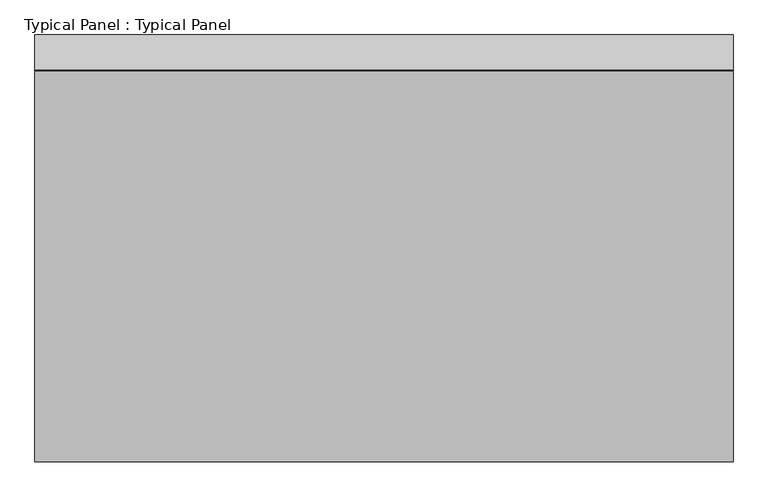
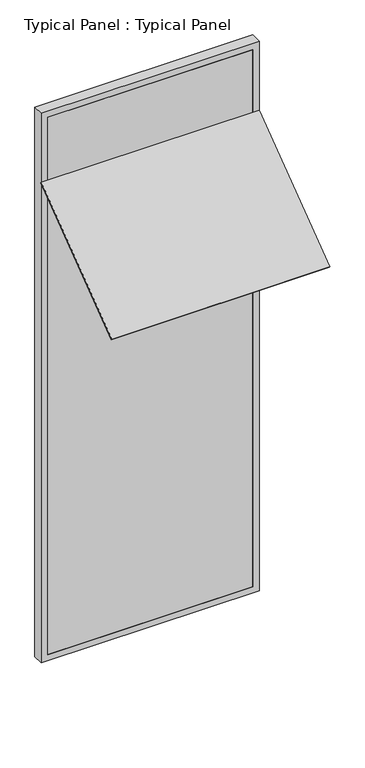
"""IFC4 building model written with IfcOpenShell, lengths in millimetres: plate geometry, Typical Panel : Typical Panel."""

import ifcopenshell
import ifcopenshell.guid

model = None  # the IFC model being written
_history = None  # IfcOwnerHistory: only IFC2X3 demands one
_inside = {}  # id of a spatial element -> (the spatial element, [elements in it])
_under = {}  # id of a project, library or spatial element -> (it, [spatial elements below it])
_declared = {}  # id of a project -> (the project, [libraries it declares])
_typed = {}  # id of a type object -> (the type object, [elements of that type])
_made_of = {}  # id of a material, layer set ... -> (it, [elements and type objects made of it])


def new_model(schema):
    """Start an empty IFC model of exactly this schema.

    Asked for "IFC4X3", IfcOpenShell would pick the latest addendum, in which some entities
    have other attributes; the version numbers below select the first issue.
    IFC2X3 requires an IfcOwnerHistory on every rooted entity: one is made here for all.
    """
    global model, _history
    if schema == "IFC4X3":
        model = ifcopenshell.file(schema_version=(4, 3, 0, 0))
    else:
        model = ifcopenshell.file(schema=schema)
    _inside.clear()
    _under.clear()
    _declared.clear()
    _typed.clear()
    _made_of.clear()
    _history = None
    if model.schema == "IFC2X3":
        org = make("IfcOrganization", Name="unknown")
        user = make(
            "IfcPersonAndOrganization",
            ThePerson=make("IfcPerson", FamilyName="unknown"),
            TheOrganization=org,
        )
        app = make(
            "IfcApplication",
            ApplicationDeveloper=org,
            Version="unknown",
            ApplicationFullName="unknown",
            ApplicationIdentifier="unknown",
        )
        _history = make(
            "IfcOwnerHistory",
            OwningUser=user,
            OwningApplication=app,
            ChangeAction="ADDED",
            CreationDate=0,
        )
    return model


def make(cls, **values):
    """One entity of the class cls with the attributes given. An attribute that is None is left unset."""
    return model.create_entity(
        cls, **{name: value for name, value in values.items() if value is not None}
    )


def rooted(cls, **values):
    """An entity with a GlobalId (a new one), such as an element, a storey or a relation."""
    return make(cls, GlobalId=ifcopenshell.guid.new(), OwnerHistory=_history, **values)


def si_unit(unit_type, name, prefix=None):
    """IfcSIUnit, for example si_unit("LENGTHUNIT", "METRE", prefix="MILLI")."""
    return make("IfcSIUnit", UnitType=unit_type, Prefix=prefix, Name=name)


def assignment(units):
    """IfcUnitAssignment: the units of a project."""
    return None if units is None else make("IfcUnitAssignment", Units=units)


def point(xyz):
    """IfcCartesianPoint."""
    return None if xyz is None else make("IfcCartesianPoint", Coordinates=xyz)


def direction(xyz):
    """IfcDirection."""
    return None if xyz is None else make("IfcDirection", DirectionRatios=xyz)


def frame(location, z_axis=None, x_axis=None):
    """IfcAxis2Placement3D, a coordinate frame: its origin and axes. An axis left out is left unset."""
    return make(
        "IfcAxis2Placement3D",
        Location=point(location),
        Axis=direction(z_axis),
        RefDirection=direction(x_axis),
    )


def origin():
    """The frame at (0, 0, 0) with its axes left unset."""
    return frame((0.0, 0.0, 0.0))


def place(relative_to, where):
    """IfcLocalPlacement: puts the frame where relative to a parent placement (None: the world)."""
    return make(
        "IfcLocalPlacement", PlacementRelTo=relative_to, RelativePlacement=where
    )


def context(
    kind, dimensions, precision=None, world=None, true_north=None, identifier=None
):
    """IfcGeometricRepresentationContext, for example the 3D "Model" context."""
    return make(
        "IfcGeometricRepresentationContext",
        ContextIdentifier=identifier,
        ContextType=kind,
        CoordinateSpaceDimension=dimensions,
        Precision=precision,
        WorldCoordinateSystem=world,
        TrueNorth=true_north,
    )


def project(units=None, contexts=None):
    """IfcProject with its units and contexts."""
    return rooted(
        "IfcProject",
        Name="project",
        RepresentationContexts=contexts,
        UnitsInContext=assignment(units),
    )


def spatial(cls, under=None, at=None, **own):
    """A site, building, storey or space (cls), placed at a placement, below another one or the project."""
    s = rooted(cls, ObjectPlacement=at, **own)
    if under is not None:
        _under.setdefault(under.id(), (under, []))[1].append(s)
    return s


def polyline(points):
    """IfcPolyline through the points."""
    return make("IfcPolyline", Points=[point(p) for p in points])


def outline(outer, holes=None, kind="AREA"):
    """IfcArbitraryClosedProfileDef: a profile drawn as a closed curve; with holes, ...WithVoids."""
    if holes is None:
        return make("IfcArbitraryClosedProfileDef", ProfileType=kind, OuterCurve=outer)
    return make(
        "IfcArbitraryProfileDefWithVoids",
        ProfileType=kind,
        OuterCurve=outer,
        InnerCurves=holes,
    )


def extrude(swept, where, along, depth):
    """IfcExtrudedAreaSolid: the profile swept, set in the frame where, extruded along a direction by depth."""
    return make(
        "IfcExtrudedAreaSolid",
        SweptArea=swept,
        Position=where,
        ExtrudedDirection=direction(along),
        Depth=depth,
    )


def shape(context_of_items, identifier, shape_type, items):
    """IfcShapeRepresentation: the items that make up one representation, for example the "Body"."""
    return make(
        "IfcShapeRepresentation",
        ContextOfItems=context_of_items,
        RepresentationIdentifier=identifier,
        RepresentationType=shape_type,
        Items=items,
    )


def source(mapping_origin, context_of_items, identifier, shape_type, items):
    """IfcRepresentationMap: a shape defined once, which mapped items show again and again."""
    return make(
        "IfcRepresentationMap",
        MappingOrigin=mapping_origin,
        MappedRepresentation=shape(context_of_items, identifier, shape_type, items),
    )


def transform(
    local_origin,
    x_axis=None,
    y_axis=None,
    z_axis=None,
    scale=None,
    scale2=None,
    scale3=None,
    uniform=True,
):
    """IfcCartesianTransformationOperator3D, or its non-uniform kind. x_axis, y_axis, z_axis: its Axis1, 2, 3."""
    if uniform:
        return make(
            "IfcCartesianTransformationOperator3D",
            Axis1=direction(x_axis),
            Axis2=direction(y_axis),
            LocalOrigin=point(local_origin),
            Scale=scale,
            Axis3=direction(z_axis),
        )
    return make(
        "IfcCartesianTransformationOperator3DnonUniform",
        Axis1=direction(x_axis),
        Axis2=direction(y_axis),
        LocalOrigin=point(local_origin),
        Scale=scale,
        Axis3=direction(z_axis),
        Scale2=scale2,
        Scale3=scale3,
    )


def mapped(mapping_source, mapping_target):
    """IfcMappedItem: shows the shape of a source again, moved by a transform."""
    return make(
        "IfcMappedItem", MappingSource=mapping_source, MappingTarget=mapping_target
    )


def made_of(thing, what):
    """Note that an element or type object is made of a material, layer set ...; save() writes the relation."""
    if what is not None:
        _made_of.setdefault(what.id(), (what, []))[1].append(thing)
    return thing


def element(
    cls,
    number,
    at=None,
    inside=None,
    cuts=None,
    type_object=None,
    material=None,
    context=None,
    identifier="Body",
    shape_type=None,
    held_by="IfcProductDefinitionShape",
    body=None,
    shapes=None,
    **own,
):
    """One element of the class cls, such as IfcWall. Its Tag is "e" and its number.

    at: its placement. inside: the storey or other place that contains it. cuts: it is an
    opening in that element (IfcRelVoidsElement). A single representation is given by context,
    identifier, shape_type and body (its items); several are given by shapes. held_by: the class
    of the entity that holds the representations. save() writes the other relations.
    """
    e = rooted(cls, Tag="e%d" % number, ObjectPlacement=at, **own)
    if body is not None:
        shapes = [shape(context, identifier, shape_type, body)]
    if shapes is not None:
        e.Representation = make(held_by, Representations=shapes)
    if inside is not None:
        _inside.setdefault(inside.id(), (inside, []))[1].append(e)
    if cuts is not None:
        rooted(
            "IfcRelVoidsElement", RelatingBuildingElement=cuts, RelatedOpeningElement=e
        )
    if type_object is not None:
        _typed.setdefault(type_object.id(), (type_object, []))[1].append(e)
    return made_of(e, material)


def aggregate(whole, parts):
    """IfcRelAggregates: a whole, such as a stair, and the parts it consists of."""
    return rooted("IfcRelAggregates", RelatingObject=whole, RelatedObjects=parts)


def save(model, path):
    """Write the relations noted so far, then the file.

    IfcRelAggregates (storeys below a building ...), IfcRelContainedInSpatialStructure (elements
    in a storey), IfcRelDefinesByType, IfcRelAssociatesMaterial and IfcRelDeclares: one each for
    every whole, place, type object, material and project.
    """
    for whole, parts in _under.values():
        aggregate(whole, parts)
    for where, things in _inside.values():
        rooted(
            "IfcRelContainedInSpatialStructure",
            RelatedElements=things,
            RelatingStructure=where,
        )
    for kind, things in _typed.values():
        rooted("IfcRelDefinesByType", RelatedObjects=things, RelatingType=kind)
    for what, things in _made_of.values():
        rooted("IfcRelAssociatesMaterial", RelatedObjects=things, RelatingMaterial=what)
    for by, libraries in _declared.values():
        rooted("IfcRelDeclares", RelatingContext=by, RelatedDefinitions=libraries)
    model.write(path)


def typical_panel_typical_panel_fa7228e3(model_context):
    return source(origin(), model_context, "Body", "SweptSolid", [
        extrude(outline(polyline([(0.0, -1050.0), (0.0, 0.0), (1500.0, 0.0), (1500.0, -1050.0), (0.0, -1050.0)])), frame((750.0, -837.5491353, 2860.1078706), z_axis=(0.0, -0.6018150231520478, 0.7986355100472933), x_axis=(-1.0, 0.0, 0.0)), (0.0, 0.0, 1.0), 10.0),
        extrude(outline(polyline([(0.0, -750.0), (0.0, 750.0), (4000.0, 750.0), (4000.0, -750.0), (0.0, -750.0)]), holes=[polyline([(45.0, 705.0), (45.0, -705.0), (3955.0, -705.0), (3955.0, 705.0), (45.0, 705.0)])]), frame((0.0, -1.5797986, 0.0), z_axis=(0.0, 1.0, 0.0), x_axis=(0.0, 0.0, 1.0)), (0.0, 0.0, 1.0), 75.0),
        extrude(outline(polyline([(705.0, -1.5797986), (-705.0, -1.5797986), (-705.0, 13.4202014), (705.0, 13.4202014), (705.0, -1.5797986)])), frame((0.0, 0.0, 45.0), z_axis=(0.0, 0.0, 1.0), x_axis=(1.0, 0.0, 0.0)), (0.0, 0.0, 1.0), 3910.0),
    ])


if __name__ == "__main__":
    model = new_model("IFC4")
    model_context = context("Model", 3, world=origin())
    ifc_project = project(units=[si_unit("LENGTHUNIT", "METRE", prefix="MILLI")], contexts=[model_context])
    site = spatial("IfcSite", under=ifc_project)
    building = spatial("IfcBuilding", under=site)
    placement = place(None, origin())
    typical_panel_typical_panel_shape = typical_panel_typical_panel_fa7228e3(model_context)
    element("IfcPlate", 1, ObjectType="Typical Panel : Typical Panel", at=placement, inside=building, context=model_context, shape_type="MappedRepresentation", body=[
        mapped(typical_panel_typical_panel_shape, transform((0.0, 0.0, 0.0), x_axis=(1.0, 0.0, 0.0), y_axis=(0.0, 1.0, 0.0), z_axis=(0.0, 0.0, 1.0))),
    ])
    save(model, "model.ifc")
